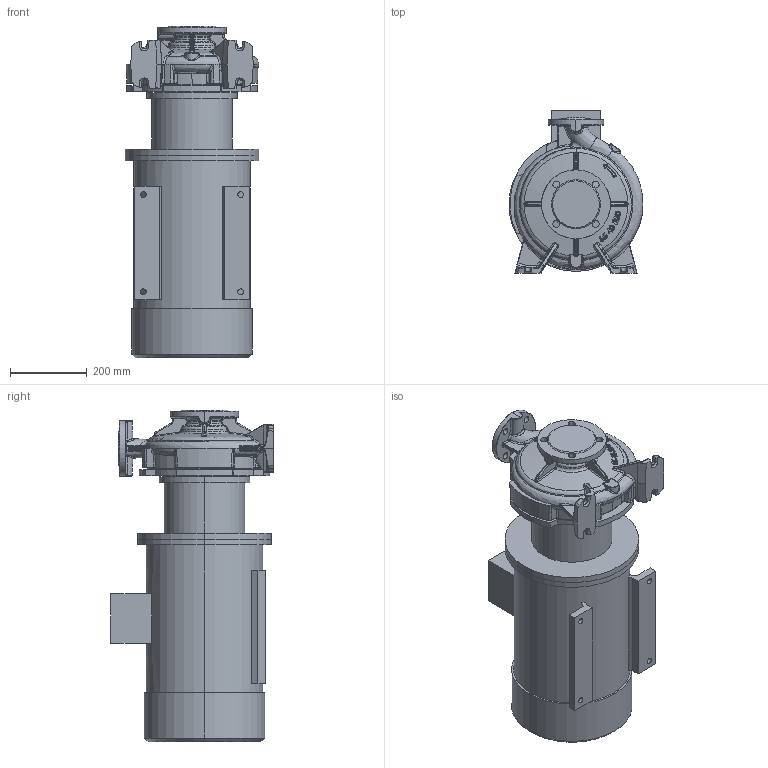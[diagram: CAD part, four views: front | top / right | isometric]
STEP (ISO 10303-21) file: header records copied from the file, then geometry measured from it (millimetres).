
FILE_DESCRIPTION (( 'STEP AP214' ), '1' );
FILE_NAME ('KRM 65-40-250-2-18,5.STEP', '2026-04-24T11:53:23', ( '' ), ( '' ), 'SwSTEP 2.0', 'SolidWorks 2016', '' );
FILE_SCHEMA (( 'AUTOMOTIVE_DESIGN' ));
Length unit declared in the file: millimetre
Products named in the file (1): KRM 65-40-250-2-18,5
Bounding box: 350 x 425 x 867.3 mm (x, y, z)
Volume: 59729761 mm3; surface area: 1900435.6 mm2
Topology: 4 solids, 4 shells, 1173 faces, 2853 edges, 1692 vertices
Faces by surface type: bspline 533, cylinder 218, plane 214, torus 96, cone 82, sphere 30
Entity records: 84928 total; most frequent: CARTESIAN_POINT 48889, ORIENTED_EDGE 5652, DIRECTION 3729, EDGE_CURVE 2826, VERTEX_POINT 1692, AXIS2_PLACEMENT_3D 1571, EDGE_LOOP 1228, UNCERTAINTY_MEASURE_WITH_UNIT 1179
